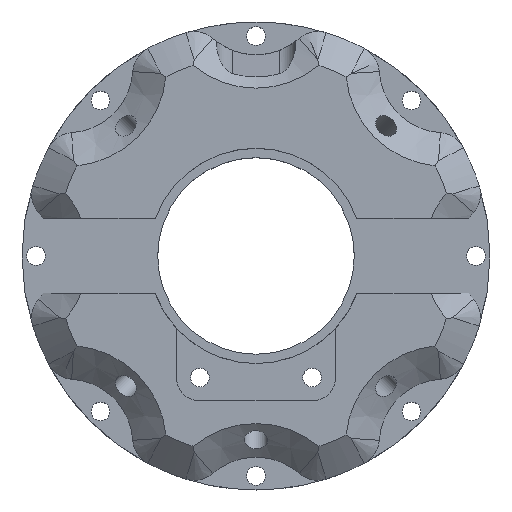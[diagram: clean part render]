
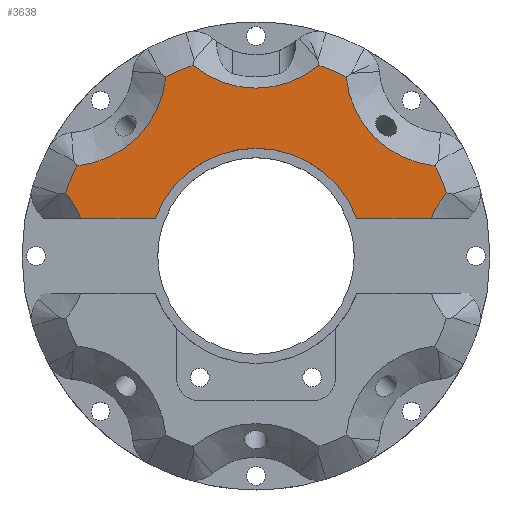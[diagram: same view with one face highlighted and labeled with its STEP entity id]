
A CAD part, top view. The second image highlights one B-rep face of the part: STEP entity #3638.
In plain terms, the highlighted planar face has unit normal (0, 0, 1).
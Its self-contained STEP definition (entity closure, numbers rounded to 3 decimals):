
#1859=CARTESIAN_POINT('',(87.421,58.,-0.0));
#1860=VERTEX_POINT('',#1859);
#1879=CARTESIAN_POINT('',(71.564,58.,0.0));
#1880=VERTEX_POINT('',#1879);
#1881=CARTESIAN_POINT('',(87.421,58.,0.));
#1882=DIRECTION('',(-1.0,0.,0.0));
#1883=VECTOR('',#1882,1.0);
#1884=LINE('',#1881,#1883);
#1885=EDGE_CURVE('',#1860,#1880,#1884,.T.);
#2082=CARTESIAN_POINT('',(28.436,58.,0.0));
#2083=VERTEX_POINT('',#2082);
#2084=CARTESIAN_POINT('',(50.,50.,0.0));
#2085=DIRECTION('',(0.0,0.0,1.0));
#2086=DIRECTION('',(0.938,0.348,0.0));
#2087=AXIS2_PLACEMENT_3D('',#2084,#2085,#2086);
#2088=CIRCLE('',#2087,23.);
#2089=EDGE_CURVE('',#1880,#2083,#2088,.T.);
#2106=CARTESIAN_POINT('',(12.579,58.0,0.0));
#2107=VERTEX_POINT('',#2106);
#2108=CARTESIAN_POINT('',(28.436,58.,0.0));
#2109=DIRECTION('',(-1.0,0.,0.0));
#2110=VECTOR('',#2109,1.0);
#2111=LINE('',#2108,#2110);
#2112=EDGE_CURVE('',#2083,#2107,#2111,.T.);
#2220=CARTESIAN_POINT('',(9.318,63.456,0.0));
#2221=VERTEX_POINT('',#2220);
#2222=CARTESIAN_POINT('',(-7.0,50.0,0.0));
#2223=DIRECTION('',(0.0,0.0,1.0));
#2224=DIRECTION('',(0.926,0.378,0.0));
#2225=AXIS2_PLACEMENT_3D('',#2222,#2223,#2224);
#2226=CIRCLE('',#2225,21.151);
#2227=EDGE_CURVE('',#2107,#2221,#2226,.T.);
#2252=CARTESIAN_POINT('',(11.719,69.252,0.0));
#2253=VERTEX_POINT('',#2252);
#2254=CARTESIAN_POINT('',(50.0,50.0,0.0));
#2255=DIRECTION('',(0.0,0.0,1.0));
#2256=DIRECTION('',(-0.893,0.449,0.0));
#2257=AXIS2_PLACEMENT_3D('',#2254,#2255,#2256);
#2258=CIRCLE('',#2257,42.849);
#2259=EDGE_CURVE('',#2253,#2221,#2258,.T.);
#2464=CARTESIAN_POINT('',(30.748,88.281,0.0));
#2465=VERTEX_POINT('',#2464);
#2466=CARTESIAN_POINT('',(9.695,90.305,0.0));
#2467=DIRECTION('',(0.0,0.0,1.0));
#2468=DIRECTION('',(0.096,-0.995,0.0));
#2469=AXIS2_PLACEMENT_3D('',#2466,#2467,#2468);
#2470=CIRCLE('',#2469,21.151);
#2471=EDGE_CURVE('',#2253,#2465,#2470,.T.);
#2706=CARTESIAN_POINT('',(36.544,90.682,0.0));
#2707=VERTEX_POINT('',#2706);
#2708=CARTESIAN_POINT('',(50.0,50.0,0.0));
#2709=DIRECTION('',(0.0,0.0,1.0));
#2710=DIRECTION('',(-0.314,0.949,0.0));
#2711=AXIS2_PLACEMENT_3D('',#2708,#2709,#2710);
#2712=CIRCLE('',#2711,42.849);
#2713=EDGE_CURVE('',#2707,#2465,#2712,.T.);
#2762=CARTESIAN_POINT('',(63.456,90.682,0.0));
#2763=VERTEX_POINT('',#2762);
#2764=CARTESIAN_POINT('',(50.0,107.0,0.0));
#2765=DIRECTION('',(0.0,0.0,1.0));
#2766=DIRECTION('',(-0.636,-0.772,0.0));
#2767=AXIS2_PLACEMENT_3D('',#2764,#2765,#2766);
#2768=CIRCLE('',#2767,21.151);
#2769=EDGE_CURVE('',#2707,#2763,#2768,.T.);
#3047=CARTESIAN_POINT('',(69.252,88.281,0.0));
#3048=VERTEX_POINT('',#3047);
#3049=CARTESIAN_POINT('',(50.0,50.0,0.0));
#3050=DIRECTION('',(0.0,0.0,1.0));
#3051=DIRECTION('',(0.449,0.893,0.0));
#3052=AXIS2_PLACEMENT_3D('',#3049,#3050,#3051);
#3053=CIRCLE('',#3052,42.849);
#3054=EDGE_CURVE('',#3048,#2763,#3053,.T.);
#3259=CARTESIAN_POINT('',(88.281,69.252,0.0));
#3260=VERTEX_POINT('',#3259);
#3261=CARTESIAN_POINT('',(90.305,90.305,0.0));
#3262=DIRECTION('',(0.0,0.0,1.0));
#3263=DIRECTION('',(-0.995,-0.096,0.0));
#3264=AXIS2_PLACEMENT_3D('',#3261,#3262,#3263);
#3265=CIRCLE('',#3264,21.151);
#3266=EDGE_CURVE('',#3048,#3260,#3265,.T.);
#3501=CARTESIAN_POINT('',(90.682,63.456,0.0));
#3502=VERTEX_POINT('',#3501);
#3503=CARTESIAN_POINT('',(50.0,50.0,0.0));
#3504=DIRECTION('',(0.0,0.0,1.0));
#3505=DIRECTION('',(0.949,0.314,0.0));
#3506=AXIS2_PLACEMENT_3D('',#3503,#3504,#3505);
#3507=CIRCLE('',#3506,42.849);
#3508=EDGE_CURVE('',#3502,#3260,#3507,.T.);
#3600=CARTESIAN_POINT('',(107.0,50.0,0.0));
#3601=DIRECTION('',(0.0,0.0,1.0));
#3602=DIRECTION('',(-0.772,0.636,0.0));
#3603=AXIS2_PLACEMENT_3D('',#3600,#3601,#3602);
#3604=CIRCLE('',#3603,21.151);
#3605=EDGE_CURVE('',#3502,#1860,#3604,.T.);
#3619=ORIENTED_EDGE('',*,*,#1885,.F.);
#3620=ORIENTED_EDGE('',*,*,#3605,.F.);
#3621=ORIENTED_EDGE('',*,*,#3508,.T.);
#3622=ORIENTED_EDGE('',*,*,#3266,.F.);
#3623=ORIENTED_EDGE('',*,*,#3054,.T.);
#3624=ORIENTED_EDGE('',*,*,#2769,.F.);
#3625=ORIENTED_EDGE('',*,*,#2713,.T.);
#3626=ORIENTED_EDGE('',*,*,#2471,.F.);
#3627=ORIENTED_EDGE('',*,*,#2259,.T.);
#3628=ORIENTED_EDGE('',*,*,#2227,.F.);
#3629=ORIENTED_EDGE('',*,*,#2112,.F.);
#3630=ORIENTED_EDGE('',*,*,#2089,.F.);
#3631=EDGE_LOOP('',(
    #3619,#3620,#3621,#3622,#3623,#3624,#3625,#3626,#3627,#3628,
    #3629,#3630));
#3632=FACE_OUTER_BOUND('',#3631,.T.);
#3633=CARTESIAN_POINT('',(90.682,90.682,0.0));
#3634=DIRECTION('',(0.0,0.0,1.0));
#3635=DIRECTION('',(-1.0,0.0,0.0));
#3636=AXIS2_PLACEMENT_3D('',#3633,#3634,#3635);
#3637=PLANE('',#3636);
#3638=ADVANCED_FACE('',(#3632),#3637,.T.);
